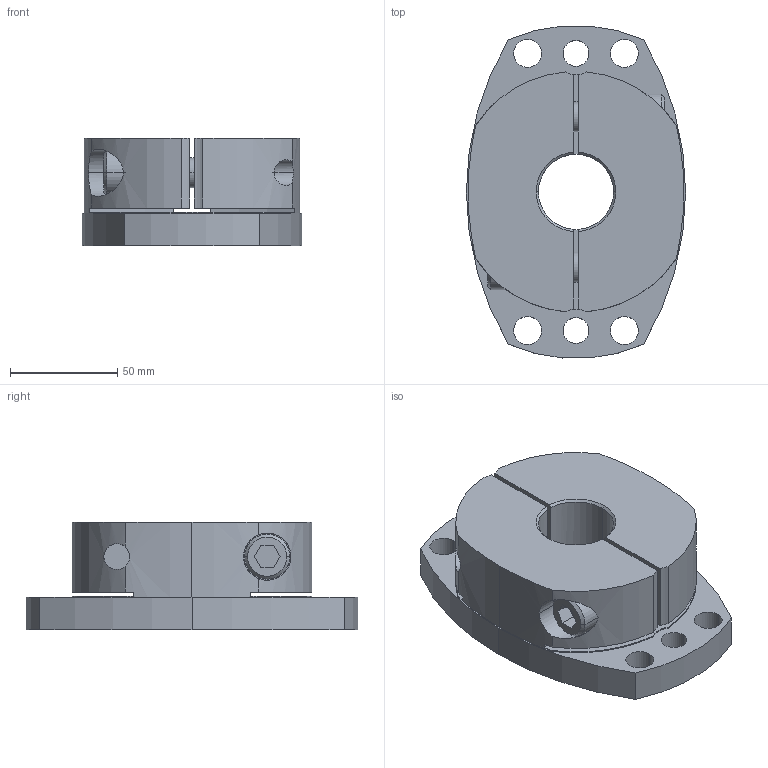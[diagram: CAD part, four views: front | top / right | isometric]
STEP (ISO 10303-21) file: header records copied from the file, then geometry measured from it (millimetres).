
FILE_DESCRIPTION((''),'2;1');
FILE_NAME('SHDB-155B-35.stp','2026-01-28T08:58:04',(''),(''),'AutoCAD STEP 2000i','AutoCAD 2000i',', , ');
FILE_SCHEMA(('CONFIG_CONTROL_DESIGN'));
Length unit declared in the file: millimetre
Products named in the file (2): SHDB-155B-35; 忣兜1
Assembly tree (1 placements, depth 2):
  SHDB-155B-35
    忣兜1
Bounding box: 102 x 154.46 x 50 mm (x, y, z)
Volume: 441864.3 mm3; surface area: 71447.2 mm2
Topology: 1 solids, 1 shells, 102 faces, 280 edges, 184 vertices
Faces by surface type: cylinder 58, plane 34, cone 10
Entity records: 3723 total; most frequent: CARTESIAN_POINT 896, DIRECTION 602, ORIENTED_EDGE 560, EDGE_CURVE 280, AXIS2_PLACEMENT_3D 238, VERTEX_POINT 184, CIRCLE 134, VECTOR 126
